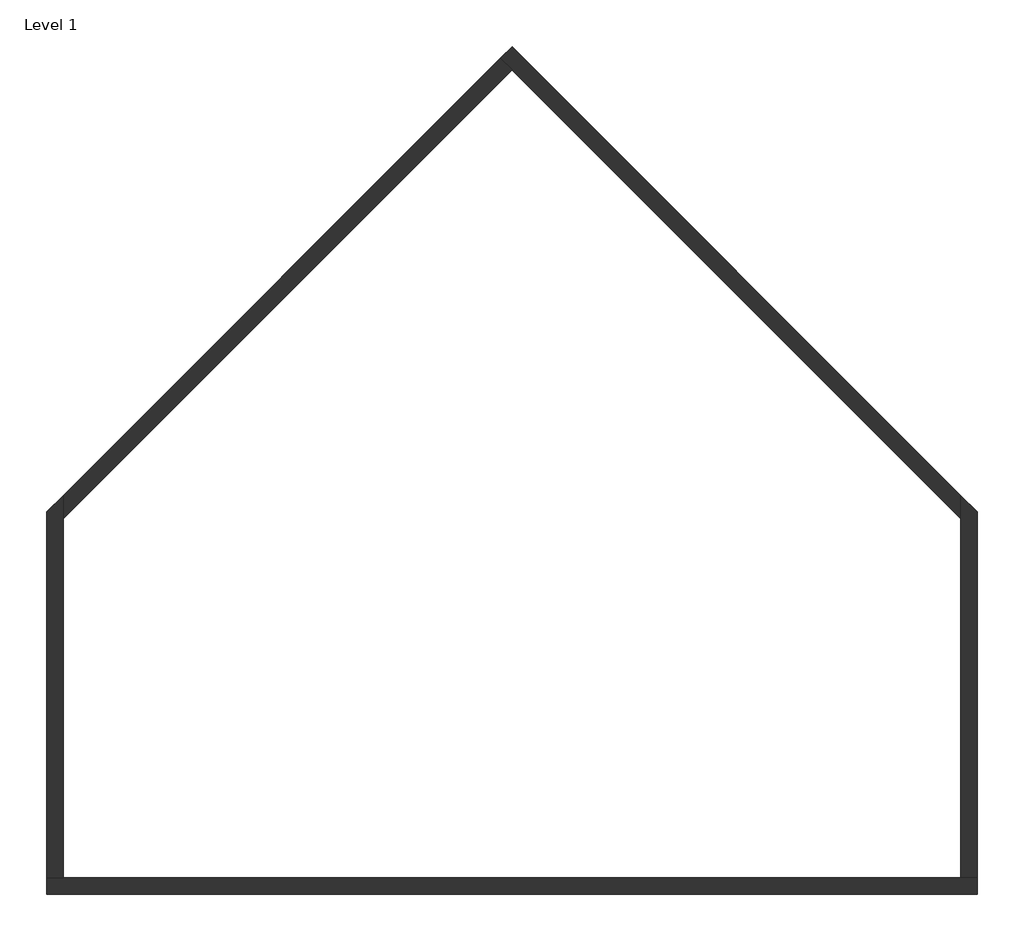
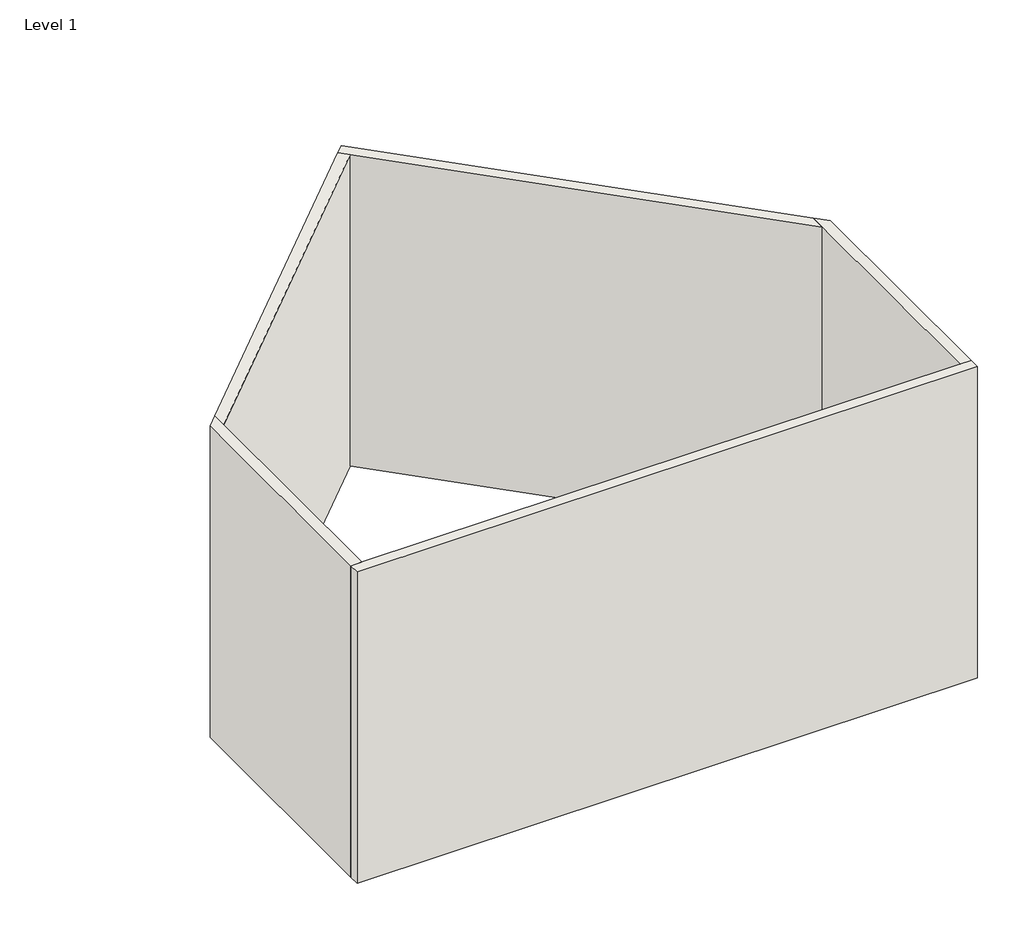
# One storey: 5 walls.
"""IFC4 building model written with IfcOpenShell, lengths in millimetres."""

from ifc_helpers import new_model, si_unit, origin, origin_with_axes, place, context, project, spatial, polyline, outline, extrude, faceted_brep, element, save

model = new_model("IFC4")

# Units and contexts
model_context = context("Model", 3, world=origin())
ifc_project = project(units=[si_unit("LENGTHUNIT", "METRE", prefix="MILLI")], contexts=[model_context])

# Site, building, storey
site = spatial("IfcSite", under=ifc_project)
building = spatial("IfcBuilding", under=site)
storey = spatial("IfcBuildingStorey", under=building, Name="Level 1", Elevation=0.0)

# Walls
placement = place(None, origin())
element("IfcWall", 1, ObjectType="Generic - 8\"", at=placement, inside=storey, context=model_context, shape_type="Brep", body=[
    faceted_brep([(-6111.0483612, 4615.1178555, 0.0), (5369.7516388, 4615.1178555, 0.0), (5369.7516388, 4615.1178555, 6096.0), (-6111.0483612, 4615.1178555, 6096.0), (-6111.0483612, 4818.3178555, 0.0), (-6111.0483612, 4818.3178555, 6096.0), (-5907.8483612, 4818.3178555, 6096.0), (5166.5516388, 4818.3178555, 6096.0), (5369.7516388, 4818.3178555, 6096.0), (5369.7516388, 4818.3178555, 0.0), (5166.5516388, 4818.3178555, 0.0), (-5907.8483612, 4818.3178555, 0.0)], [[[0, 1, 2, 3]], [[4, 5, 6, 7, 8, 9, 10, 11]], [[1, 0, 4, 11, 10, 9]], [[3, 2, 8, 7, 6, 5]], [[2, 1, 9, 8]], [[0, 3, 5, 4]]]),
])
element("IfcWall", 2, ObjectType="Generic - 8\"", at=placement, inside=storey, context=model_context, shape_type="Brep", body=[
    faceted_brep([(5369.7516388, 4818.3178555, 0.0), (5369.7516388, 9330.8019534, 0.0), (5369.7516388, 9330.8019534, 6096.0), (5369.7516388, 4818.3178555, 6096.0), (5166.5516388, 4818.3178555, 0.0), (5166.5516388, 4818.3178555, 6096.0), (5166.5516388, 9246.6337575, 6096.0), (5166.5516388, 9534.0019534, 6096.0), (5166.5516388, 9534.0019534, 0.0), (5166.5516388, 9246.6337575, 0.0)], [[[0, 1, 2, 3]], [[4, 5, 6, 7, 8, 9]], [[1, 0, 4, 9, 8]], [[3, 2, 7, 6, 5]], [[2, 1, 8, 7]], [[0, 3, 5, 4]]]),
])
element("IfcWall", 3, ObjectType="Generic - 8\"", at=placement, inside=storey, context=model_context, shape_type="Brep", body=[
    faceted_brep([(5166.5516388, 9534.0019534, 0.0), (-370.6483612, 15071.2019534, 0.0), (-370.6483612, 15071.2019534, 6096.0), (5166.5516388, 9534.0019534, 6096.0), (5166.5516388, 9246.6337575, 0.0), (5166.5516388, 9246.6337575, 6096.0), (-370.6483612, 14783.8337575, 6096.0), (-514.3324592, 14927.5178555, 6096.0), (-514.3324592, 14927.5178555, 0.0), (-370.6483612, 14783.8337575, 0.0)], [[[0, 1, 2, 3]], [[4, 5, 6, 7, 8, 9]], [[1, 0, 4, 9, 8]], [[3, 2, 7, 6, 5]], [[2, 1, 8, 7]], [[0, 3, 5, 4]]]),
])
element("IfcWall", 4, ObjectType="Generic - 8\"", at=placement, inside=storey, context=model_context, shape_type="Brep", body=[
    faceted_brep([(-5907.8483612, 4818.3178555, 0.0), (-5907.8483612, 9246.6337575, 0.0), (-5907.8483612, 9534.0019534, 0.0), (-5907.8483612, 9534.0019534, 6096.0), (-5907.8483612, 9246.6337575, 6096.0), (-5907.8483612, 4818.3178555, 6096.0), (-6111.0483612, 4818.3178555, 0.0), (-6111.0483612, 4818.3178555, 6096.0), (-6111.0483612, 9330.8019534, 6096.0), (-6111.0483612, 9330.8019534, 0.0)], [[[0, 1, 2, 3, 4, 5]], [[6, 7, 8, 9]], [[2, 1, 0, 6, 9]], [[5, 4, 3, 8, 7]], [[3, 2, 9, 8]], [[0, 5, 7, 6]]]),
])
element("IfcWall", 5, ObjectType="Generic - 8\"", at=placement, inside=storey, context=model_context, shape_type="SweptSolid", body=[
    extrude(outline(polyline([(-370.6483612, 14783.8337575), (-5907.8483612, 9246.6337575), (-5907.8483612, 9534.0019534), (-514.3324592, 14927.5178555), (-370.6483612, 14783.8337575)])), origin_with_axes(), (0.0, 0.0, 1.0), 6096.0),
])

save(model, "model.ifc")
